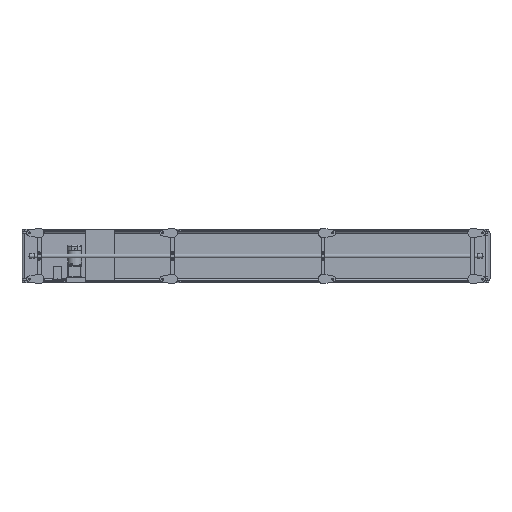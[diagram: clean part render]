
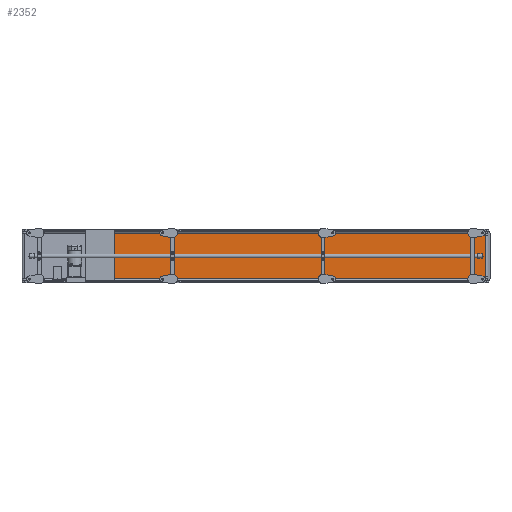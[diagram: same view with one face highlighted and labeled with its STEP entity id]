
A CAD part, front view. The second image highlights one B-rep face of the part: STEP entity #2352.
In plain terms, the highlighted planar face has unit normal (-0.005, -1, 0).
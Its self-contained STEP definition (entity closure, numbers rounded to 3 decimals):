
#2352=ADVANCED_FACE('',(#6883),#6882,.F.);
#6882=PLANE('',#32942);
#6883=FACE_OUTER_BOUND('',#32943,.T.);
#32939=CARTESIAN_POINT('',(2984.382,-37.355,-155.));
#32940=DIRECTION('',(0.006,1.,0.));
#32941=DIRECTION('',(-1.,0.006,0.));
#32942=AXIS2_PLACEMENT_3D('',#32939,#32940,#32941);
#32943=EDGE_LOOP('',(#49130,#49131,#49132,#49133));
#49130=ORIENTED_EDGE('',*,*,#61990,.T.);
#49131=ORIENTED_EDGE('',*,*,#61962,.F.);
#49132=ORIENTED_EDGE('',*,*,#61991,.F.);
#49133=ORIENTED_EDGE('',*,*,#61988,.T.);
#61962=EDGE_CURVE('',#71794,#71779,#71801,.T.);
#61988=EDGE_CURVE('',#71970,#71963,#71971,.T.);
#61990=EDGE_CURVE('',#71963,#71779,#71983,.T.);
#61991=EDGE_CURVE('',#71970,#71794,#71989,.T.);
#71779=VERTEX_POINT('',#114678);
#71794=VERTEX_POINT('',#114688);
#71801=LINE('',#114693,#114694);
#71963=VERTEX_POINT('',#114788);
#71970=VERTEX_POINT('',#114792);
#71971=LINE('',#114793,#114794);
#71983=LINE('',#114799,#114800);
#71989=LINE('',#114802,#114803);
#114678=CARTESIAN_POINT('',(2974.382,-37.3,-145.));
#114688=CARTESIAN_POINT('',(2974.382,-37.3,145.));
#114693=CARTESIAN_POINT('',(2974.382,-37.3,145.));
#114694=VECTOR('',#114695,290.);
#114695=DIRECTION('',(0.,0.,-1.));
#114788=CARTESIAN_POINT('',(553.093,-23.928,-145.));
#114792=CARTESIAN_POINT('',(553.093,-23.928,145.));
#114793=CARTESIAN_POINT('',(553.093,-23.928,145.));
#114794=VECTOR('',#114795,290.);
#114795=DIRECTION('',(0.,0.,-1.));
#114799=CARTESIAN_POINT('',(553.093,-23.928,-145.));
#114800=VECTOR('',#114801,2421.326);
#114801=DIRECTION('',(1.,-0.006,0.));
#114802=CARTESIAN_POINT('',(553.093,-23.928,145.));
#114803=VECTOR('',#114804,2421.326);
#114804=DIRECTION('',(1.,-0.006,0.));
